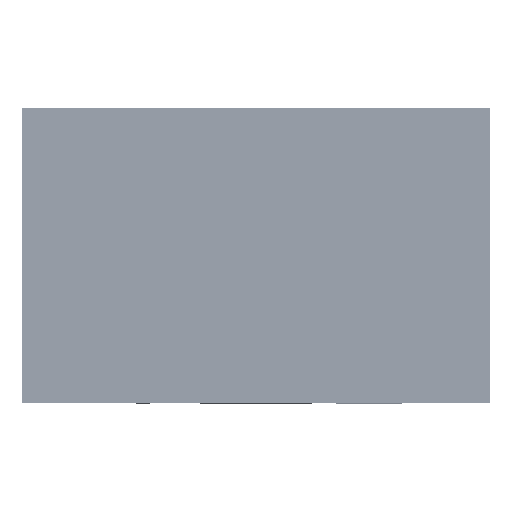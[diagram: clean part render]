
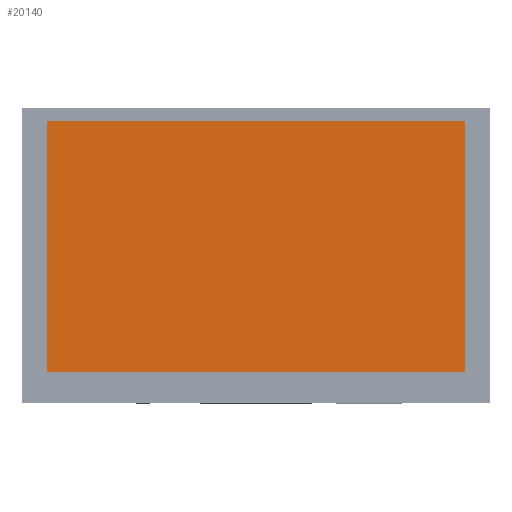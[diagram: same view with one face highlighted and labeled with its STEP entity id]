
A CAD part, top view. The second image highlights one B-rep face of the part: STEP entity #20140.
In plain terms, the highlighted planar face has unit normal (0, 0, 1).
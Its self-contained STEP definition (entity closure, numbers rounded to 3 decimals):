
#717 = EDGE_CURVE ( 'NONE', #482666, #351590, #283353, .T. ) ;
#20140 = ADVANCED_FACE ( 'NONE', ( #406166 ), #318187, .T. ) ;
#42292 = LINE ( 'NONE', #566595, #573479 ) ;
#82360 = CARTESIAN_POINT ( 'NONE',  ( 0., 32.4, 1.1 ) ) ;
#88716 = DIRECTION ( 'NONE',  ( 1., 0., 0. ) ) ;
#101034 = DIRECTION ( 'NONE',  ( 0., -1., 0. ) ) ;
#182087 = CARTESIAN_POINT ( 'NONE',  ( 54., -32.4, 1.1 ) ) ;
#208390 = ORIENTED_EDGE ( 'NONE', *, *, #606490, .F. ) ;
#214459 = ORIENTED_EDGE ( 'NONE', *, *, #607216, .F. ) ;
#283353 = LINE ( 'NONE', #468729, #618728 ) ;
#318187 = PLANE ( 'NONE',  #608765 ) ;
#334241 = VECTOR ( 'NONE', #465575, 1000. ) ;
#351590 = VERTEX_POINT ( 'NONE', #407327 ) ;
#354009 = DIRECTION ( 'NONE',  ( -1., 0., 0. ) ) ;
#395135 = CARTESIAN_POINT ( 'NONE',  ( -54., -32.4, 1.1 ) ) ;
#401608 = ORIENTED_EDGE ( 'NONE', *, *, #717, .F. ) ;
#406166 = FACE_OUTER_BOUND ( 'NONE', #575043, .T. ) ;
#407327 = CARTESIAN_POINT ( 'NONE',  ( -54., 32.4, 1.1 ) ) ;
#407645 = LINE ( 'NONE', #567938, #455353 ) ;
#427787 = DIRECTION ( 'NONE',  ( 0., 0., 1. ) ) ;
#428677 = ORIENTED_EDGE ( 'NONE', *, *, #604421, .F. ) ;
#439106 = VERTEX_POINT ( 'NONE', #439713 ) ;
#439713 = CARTESIAN_POINT ( 'NONE',  ( 54., 32.4, 1.1 ) ) ;
#455353 = VECTOR ( 'NONE', #354009, 1000. ) ;
#465575 = DIRECTION ( 'NONE',  ( 1., 0., 0. ) ) ;
#468729 = CARTESIAN_POINT ( 'NONE',  ( -54., 0., 1.1 ) ) ;
#468781 = CARTESIAN_POINT ( 'NONE',  ( 0., 0., 1.1 ) ) ;
#471827 = DIRECTION ( 'NONE',  ( 0., 1., 0. ) ) ;
#482666 = VERTEX_POINT ( 'NONE', #395135 ) ;
#512617 = LINE ( 'NONE', #82360, #334241 ) ;
#518099 = VERTEX_POINT ( 'NONE', #182087 ) ;
#566595 = CARTESIAN_POINT ( 'NONE',  ( 54., 0., 1.1 ) ) ;
#567938 = CARTESIAN_POINT ( 'NONE',  ( 0., -32.4, 1.1 ) ) ;
#573479 = VECTOR ( 'NONE', #101034, 1000. ) ;
#575043 = EDGE_LOOP ( 'NONE', ( #401608, #214459, #428677, #208390 ) ) ;
#604421 = EDGE_CURVE ( 'NONE', #439106, #518099, #42292, .T. ) ;
#606490 = EDGE_CURVE ( 'NONE', #351590, #439106, #512617, .T. ) ;
#607216 = EDGE_CURVE ( 'NONE', #518099, #482666, #407645, .T. ) ;
#608765 = AXIS2_PLACEMENT_3D ( 'NONE', #468781, #427787, #88716 ) ;
#618728 = VECTOR ( 'NONE', #471827, 1000. ) ;
